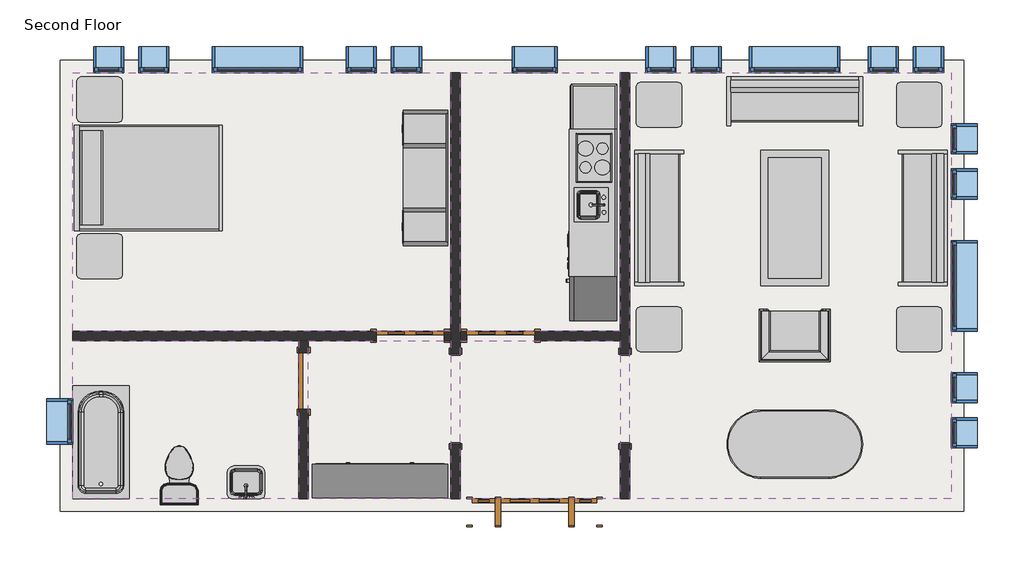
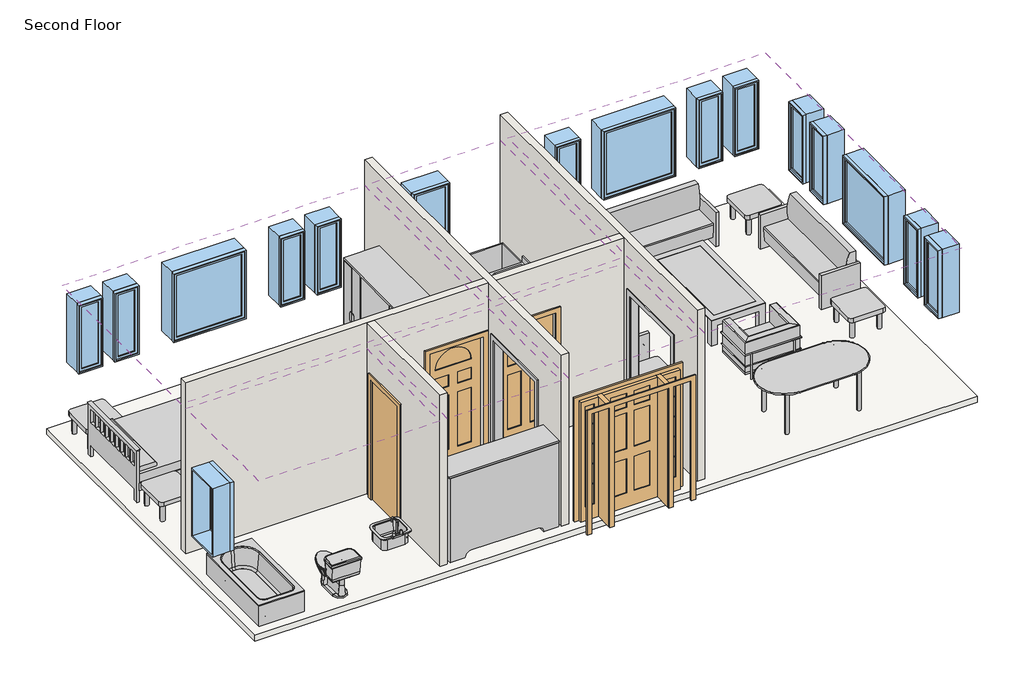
# One storey: 17 windows, 15 furniture elements, 6 coverings, 5 walls, 4 doors, 3 flow terminals, 3 proxies, 1 slab.
"""IFC4 building model written with IfcOpenShell, lengths in millimetres."""

from ifc_helpers import new_model, si_unit, frame, origin, place, context, project, spatial, polyline, outline, extrude, faceted_brep, transform, mapped, element, save
from components import proxy_64a468c4, proxy_f44482cc, door_829da954, door_2e3b4da2, door_4d6c7550, door_dba5aa2e, flow_terminal_0aeb31e3, toilet_domestic_3d_toilet_domestic_3d_f7549cf7, toilet_domestic_3d_toilet_domestic_3d_183bbd19, tub_rectangular_3d_tub_rectangular_3d_5e45a89b, furniture_096e7f55, chair_corbu_chair_corbu_2764bdef, furniture_7c473f12, furniture_ddc78764, furniture_4ef38d96, furniture_cd93a443, furniture_2c34a4f9, furniture_3a588284, furniture_1befe2a2, window_da97879f, window_d61ef850, window_60baf983, window_6eb97611

model = new_model("IFC4")

# Units and contexts
model_context = context("Model", 3, world=origin())
ifc_project = project(units=[si_unit("LENGTHUNIT", "METRE", prefix="MILLI")], contexts=[model_context])

# Site, building, storey
site = spatial("IfcSite", under=ifc_project)
building = spatial("IfcBuilding", under=site)
storey = spatial("IfcBuildingStorey", under=building, Name="Second Floor", Elevation=3048.0)

# Proxies
placement = place(None, origin())
proxy_shape = proxy_64a468c4(model_context)
element("IfcBuildingElementProxy", 1, Name="Kitchenette - Medium : 8'6\"", ObjectType="Kitchenette - Medium : 8'6\"", at=placement, inside=storey, context=model_context, shape_type="MappedRepresentation", body=[
    mapped(proxy_shape, transform((-3887.7589563, 8837.7956433, 3048.0), x_axis=(0.0, -1.0, 0.0), y_axis=(1.0, 0.0, 0.0), z_axis=(0.0, 0.0, 1.0))),
])
proxy_2_shape = proxy_f44482cc(model_context)
element("IfcBuildingElementProxy", 2, Name="Opening-Cased : 48\" x 84\"", ObjectType="Opening-Cased : 48\" x 84\"", at=placement, inside=storey, context=model_context, shape_type="MappedRepresentation", body=[
    mapped(proxy_2_shape, transform((-3773.4589563, 5882.4203434, 3048.0), x_axis=(0.0, 1.0, 0.0), y_axis=(-1.0, 0.0, 0.0), z_axis=(0.0, 0.0, 1.0))),
])
element("IfcBuildingElementProxy", 3, Name="Opening-Cased : 48\" x 84\"", ObjectType="Opening-Cased : 48\" x 84\"", at=placement, inside=storey, context=model_context, shape_type="MappedRepresentation", body=[
    mapped(proxy_2_shape, transform((-6059.4589563, 5866.04303, 3048.0), x_axis=(0.0, -1.0, 0.0), y_axis=(1.0, 0.0, 0.0), z_axis=(0.0, 0.0, 1.0))),
])

# Coverings
element("IfcCovering", 4, ObjectType="GWB on Mtl. Stud", at=placement, inside=storey, context=model_context, shape_type="SweptSolid", body=[
    extrude(outline(polyline([(-11217.2464563, 10270.0191867), (-6122.9589563, 10270.0191867), (-6122.9589563, 6787.0441867), (-11217.2464563, 6787.0441867), (-11217.2464563, 10270.0191867)])), frame((0.0, 0.0, 5638.8), z_axis=(0.0, 0.0, 1.0), x_axis=(1.0, 0.0, 0.0)), (0.0, 0.0, 1.0), 107.95),
])
element("IfcCovering", 5, ObjectType="GWB on Mtl. Stud", at=placement, inside=storey, context=model_context, shape_type="SweptSolid", body=[
    extrude(outline(polyline([(-5995.9589563, 6787.0441867), (-5995.9589563, 10270.0191867), (-3836.9589563, 10270.0191867), (-3836.9589563, 6787.0441867), (-5995.9589563, 6787.0441867)])), frame((0.0, 0.0, 5638.8), z_axis=(0.0, 0.0, 1.0), x_axis=(1.0, 0.0, 0.0)), (0.0, 0.0, 1.0), 107.95),
])
element("IfcCovering", 6, ObjectType="GWB on Mtl. Stud", at=placement, inside=storey, context=model_context, shape_type="SweptSolid", body=[
    extrude(outline(polyline([(-3709.9589563, 4526.4441867), (-3709.9589563, 10270.0191867), (622.3285437, 10270.0191867), (622.3285437, 4526.4441867), (-3709.9589563, 4526.4441867)])), frame((0.0, 0.0, 5638.8), z_axis=(0.0, 0.0, 1.0), x_axis=(1.0, 0.0, 0.0)), (0.0, 0.0, 1.0), 107.95),
])
element("IfcCovering", 7, ObjectType="GWB on Mtl. Stud", at=placement, inside=storey, context=model_context, shape_type="SweptSolid", body=[
    extrude(outline(polyline([(-3836.9589563, 4526.4441867), (-5995.9589563, 4526.4441867), (-5995.9589563, 6660.0441867), (-3836.9589563, 6660.0441867), (-3836.9589563, 4526.4441867)])), frame((0.0, 0.0, 5638.8), z_axis=(0.0, 0.0, 1.0), x_axis=(1.0, 0.0, 0.0)), (0.0, 0.0, 1.0), 107.95),
])
element("IfcCovering", 8, ObjectType="GWB on Mtl. Stud", at=placement, inside=storey, context=model_context, shape_type="SweptSolid", body=[
    extrude(outline(polyline([(-6122.9589563, 4526.4441867), (-8042.2464563, 4526.4441867), (-8042.2464563, 6660.0441867), (-6122.9589563, 6660.0441867), (-6122.9589563, 4526.4441867)])), frame((0.0, 0.0, 5638.8), z_axis=(0.0, 0.0, 1.0), x_axis=(1.0, 0.0, 0.0)), (0.0, 0.0, 1.0), 107.95),
])
element("IfcCovering", 9, ObjectType="GWB on Mtl. Stud", at=placement, inside=storey, context=model_context, shape_type="SweptSolid", body=[
    extrude(outline(polyline([(-8169.2464563, 6660.0441867), (-8169.2464563, 4526.4441867), (-11217.2464563, 4526.4441867), (-11217.2464563, 6660.0441867), (-8169.2464563, 6660.0441867)])), frame((0.0, 0.0, 5638.8), z_axis=(0.0, 0.0, 1.0), x_axis=(1.0, 0.0, 0.0)), (0.0, 0.0, 1.0), 107.95),
])

# Doors
door_shape = door_829da954(model_context)
element("IfcDoor", 10, ObjectType="Single-Decorative 2 : 36\" x 84\"", at=placement, inside=storey, context=model_context, shape_type="MappedRepresentation", body=[
    mapped(door_shape, transform((-5449.8589563, 6723.5441867, 3048.0), x_axis=(-1.0, 0.0, 0.0), y_axis=(0.0, -1.0, 0.0), z_axis=(0.0, 0.0, 1.0))),
])
door_2_shape = door_2e3b4da2(model_context)
element("IfcDoor", 11, ObjectType="Single-Decorative 2 : 36\" x 84\"", at=placement, inside=storey, context=model_context, shape_type="MappedRepresentation", body=[
    mapped(door_2_shape, transform((-6669.0589563, 6723.5441867, 3048.0), x_axis=(1.0, 0.0, 0.0), y_axis=(0.0, 1.0, 0.0), z_axis=(0.0, 0.0, 1.0))),
])
door_3_shape = door_4d6c7550(model_context)
element("IfcDoor", 12, ObjectType="Single-Flush : 30\" x 84\"", at=placement, inside=storey, context=model_context, shape_type="MappedRepresentation", body=[
    mapped(door_3_shape, transform((-8105.7464563, 6113.9441867, 3048.0), x_axis=(0.0, 1.0, 0.0), y_axis=(-1.0, 0.0, 0.0), z_axis=(0.0, 0.0, 1.0))),
])
door_4_shape = door_dba5aa2e(model_context)
element("IfcDoor", 13, ObjectType="Single-Raised Panel with Sidelights : 36\" x 84\"", at=placement, inside=storey, context=model_context, shape_type="MappedRepresentation", body=[
    mapped(door_4_shape, transform((-4992.6589563, 4350.2316867, 3048.0), x_axis=(-1.0, 0.0, 0.0), y_axis=(0.0, -1.0, 0.0), z_axis=(0.0, 0.0, 1.0))),
])

# Flow terminals
flow_terminal_shape = flow_terminal_0aeb31e3(model_context)
element("IfcFlowTerminal", 14, ObjectType="Sink Vanity-Square : 24\" x 19\"", at=placement, inside=storey, context=model_context, shape_type="MappedRepresentation", body=[
    mapped(flow_terminal_shape, transform((-8864.7572157, 4706.5895878, 3048.0), x_axis=(-1.0, 0.0, 0.0), y_axis=(0.0, -1.0, 0.0), z_axis=(0.0, 0.0, 1.0))),
])
toilet_domestic_3d_toilet_domestic_3d_shape = toilet_domestic_3d_toilet_domestic_3d_f7549cf7(model_context)
toilet_domestic_3d_toilet_domestic_3d_2_shape = toilet_domestic_3d_toilet_domestic_3d_183bbd19(model_context)
element("IfcFlowTerminal", 15, ObjectType="Toilet-Domestic-3D : Toilet-Domestic-3D", at=placement, inside=storey, context=model_context, shape_type="MappedRepresentation", body=[
    mapped(toilet_domestic_3d_toilet_domestic_3d_shape, transform((-9782.1466587, 4940.866411, 3048.0), x_axis=(-1.0000000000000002, 0.0, 0.0), y_axis=(0.0, -1.0000000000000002, 0.0), z_axis=(0.0, 0.0, 1.0))),
    mapped(toilet_domestic_3d_toilet_domestic_3d_2_shape, transform((-9782.1466587, 4940.866411, 3048.0), x_axis=(-1.0000000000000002, 0.0, 0.0), y_axis=(0.0, -1.0000000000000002, 0.0), z_axis=(0.0, 0.0, 1.0))),
])
tub_rectangular_3d_tub_rectangular_3d_shape = tub_rectangular_3d_tub_rectangular_3d_5e45a89b(model_context)
element("IfcFlowTerminal", 16, ObjectType="Tub-Rectangular-3D : Tub-Rectangular-3D", at=placement, inside=storey, context=model_context, shape_type="MappedRepresentation", body=[
    mapped(tub_rectangular_3d_tub_rectangular_3d_shape, transform((-11393.4589563, 5637.0471554, 3048.0), x_axis=(0.0, 1.0, 0.0), y_axis=(-1.0, 0.0, 0.0), z_axis=(0.0, 0.0, 1.0))),
])

# Furniture
furniture_shape = furniture_096e7f55(model_context)
element("IfcFurniture", 17, ObjectType="Bed-Shaker : Double 56\" x 78\"", at=placement, inside=storey, context=model_context, shape_type="MappedRepresentation", body=[
    mapped(furniture_shape, transform((-11183.1982802, 8871.8755561, 3048.0), x_axis=(0.0, 1.0, 0.0), y_axis=(-1.0, 0.0, 0.0), z_axis=(0.0, 0.0, 1.0))),
])
chair_corbu_chair_corbu_shape = chair_corbu_chair_corbu_2764bdef(model_context)
element("IfcFurniture", 18, ObjectType="Chair-Corbu : Chair-Corbu", at=placement, inside=storey, context=model_context, shape_type="MappedRepresentation", body=[
    mapped(chair_corbu_chair_corbu_shape, transform((-914.0851858, 7193.4962359, 3048.0), x_axis=(-1.0, 0.0, 0.0), y_axis=(0.0, -1.0, 0.0), z_axis=(0.0, 0.0, 1.0))),
])
furniture_2_shape = furniture_7c473f12(model_context)
element("IfcFurniture", 19, ObjectType="Dresser : 72\" x 60\" x 18\"", at=placement, inside=storey, context=model_context, shape_type="MappedRepresentation", body=[
    mapped(furniture_2_shape, transform((-7344.6522161, 4404.5812326, 3048.0), x_axis=(-1.0, 0.0, 0.0), y_axis=(0.0, -1.0, 0.0), z_axis=(0.0, 0.0, 1.0))),
])
furniture_3_shape = furniture_ddc78764(model_context)
element("IfcFurniture", 20, ObjectType="Entertainment Center : 72\" x 72\" x 24\"", at=placement, inside=storey, context=model_context, shape_type="MappedRepresentation", body=[
    mapped(furniture_3_shape, transform((-6059.4589563, 8852.8255561, 3048.0), x_axis=(0.0, -1.0, 0.0), y_axis=(1.0, 0.0, 0.0), z_axis=(0.0, 0.0, 1.0))),
])
furniture_4_shape = furniture_4ef38d96(model_context)
element("IfcFurniture", 21, ObjectType="Sofa : 72\"", at=placement, inside=storey, context=model_context, shape_type="MappedRepresentation", body=[
    mapped(furniture_4_shape, transform((-1557.8294481, 9741.2775883, 3048.0), x_axis=(1.0, 0.0, 0.0), y_axis=(0.0, 1.0, 0.0), z_axis=(0.0, 0.0, 1.0))),
])
element("IfcFurniture", 22, ObjectType="Sofa : 72\"", at=placement, inside=storey, context=model_context, shape_type="MappedRepresentation", body=[
    mapped(furniture_4_shape, transform((93.5869453, 8383.0021785, 3048.0), x_axis=(0.0, -1.0, 0.0), y_axis=(1.0, 0.0, 0.0), z_axis=(0.0, 0.0, 1.0))),
])
element("IfcFurniture", 23, ObjectType="Sofa : 72\"", at=placement, inside=storey, context=model_context, shape_type="MappedRepresentation", body=[
    mapped(furniture_4_shape, transform((-3170.104858, 8242.2611949, 3048.0), x_axis=(0.0, 1.0, 0.0), y_axis=(-1.0, 0.0, 0.0), z_axis=(0.0, 0.0, 1.0))),
])
furniture_5_shape = furniture_cd93a443(model_context)
element("IfcFurniture", 24, ObjectType="Table-Coffee : 36\" x 72\" x 18\"", at=placement, inside=storey, context=model_context, shape_type="MappedRepresentation", body=[
    mapped(furniture_5_shape, transform((-1582.6700341, 8330.8974534, 3048.0), x_axis=(0.0, -1.0, 0.0), y_axis=(1.0, 0.0, 0.0), z_axis=(0.0, 0.0, 1.0))),
])
furniture_6_shape = furniture_2c34a4f9(model_context)
element("IfcFurniture", 25, ObjectType="Table-Dining Oval : 36\" x 72\"", at=placement, inside=storey, context=model_context, shape_type="MappedRepresentation", body=[
    mapped(furniture_6_shape, transform((-1085.6392842, 5622.7300473, 3048.0), x_axis=(1.0, 0.0, 0.0), y_axis=(0.0, 1.0, 0.0), z_axis=(0.0, 0.0, 1.0))),
])
furniture_7_shape = furniture_3a588284(model_context)
element("IfcFurniture", 26, ObjectType="Table-End : 24\" x 24\"", at=placement, inside=storey, context=model_context, shape_type="MappedRepresentation", body=[
    mapped(furniture_7_shape, transform((-119.5925866, 9684.2316867, 3048.0), x_axis=(1.0, 0.0, 0.0), y_axis=(0.0, 1.0, 0.0), z_axis=(0.0, 0.0, 1.0))),
])
element("IfcFurniture", 27, ObjectType="Table-End : 24\" x 24\"", at=placement, inside=storey, context=model_context, shape_type="MappedRepresentation", body=[
    mapped(furniture_7_shape, transform((-3624.7925866, 9684.2316867, 3048.0), x_axis=(1.0, 0.0, 0.0), y_axis=(0.0, 1.0, 0.0), z_axis=(0.0, 0.0, 1.0))),
])
element("IfcFurniture", 28, ObjectType="Table-End : 24\" x 24\"", at=placement, inside=storey, context=model_context, shape_type="MappedRepresentation", body=[
    mapped(furniture_7_shape, transform((-3624.7925866, 6660.0441867, 3048.0), x_axis=(1.0, 0.0, 0.0), y_axis=(0.0, 1.0, 0.0), z_axis=(0.0, 0.0, 1.0))),
])
element("IfcFurniture", 29, ObjectType="Table-End : 24\" x 24\"", at=placement, inside=storey, context=model_context, shape_type="MappedRepresentation", body=[
    mapped(furniture_7_shape, transform((-119.5925866, 6660.0441867, 3048.0), x_axis=(1.0, 0.0, 0.0), y_axis=(0.0, 1.0, 0.0), z_axis=(0.0, 0.0, 1.0))),
])
element("IfcFurniture", 30, ObjectType="Table-End : 24\" x 24\"", at=placement, inside=storey, context=model_context, shape_type="MappedRepresentation", body=[
    mapped(furniture_7_shape, transform((-11164.2346356, 9756.0737357, 3048.0), x_axis=(1.0, 0.0, 0.0), y_axis=(0.0, 1.0, 0.0), z_axis=(0.0, 0.0, 1.0))),
])
furniture_8_shape = furniture_1befe2a2(model_context)
element("IfcFurniture", 31, ObjectType="Table-End : 24\" x 24\"", at=placement, inside=storey, context=model_context, shape_type="MappedRepresentation", body=[
    mapped(furniture_8_shape, transform((-11164.2346356, 7949.5773764, 3048.0), x_axis=(1.0, 0.0, 0.0), y_axis=(0.0, 1.0, 0.0), z_axis=(0.0, 0.0, 1.0))),
])

# Slab
element("IfcSlab", 32, ObjectType="LW Concrete on Metal Deck", at=placement, inside=storey, context=model_context, shape_type="SweptSolid", body=[
    extrude(outline(polyline([(787.4285437, 10435.1191867), (787.4285437, 4361.3441867), (-11382.3464563, 4361.3441867), (-11382.3464563, 10435.1191867), (787.4285437, 10435.1191867)])), frame((0.0, 0.0, 2943.225), z_axis=(0.0, 0.0, 1.0), x_axis=(1.0, 0.0, 0.0)), (0.0, 0.0, 1.0), 104.775),
])

# Walls
element("IfcWall", 33, ObjectType="Interior - 5\" Partition (2-hr)", at=placement, inside=storey, context=model_context, shape_type="Brep", body=[
    faceted_brep([(-3709.9589563, 10270.0191867, 3048.0), (-3709.9589563, 6483.8316867, 3048.0), (-3836.9589563, 6483.8316867, 3048.0), (-3836.9589563, 6660.0441867, 3048.0), (-3836.9589563, 6787.0441867, 3048.0), (-3836.9589563, 10270.0191867, 3048.0), (-3709.9589563, 5264.6316867, 3048.0), (-3709.9589563, 4526.4441867, 3048.0), (-3836.9589563, 4526.4441867, 3048.0), (-3836.9589563, 5264.6316867, 3048.0), (-3836.9589563, 10270.0191867, 6096.0), (-3836.9589563, 6787.0441867, 6096.0), (-3836.9589563, 6660.0441867, 6096.0), (-3836.9589563, 4526.4441867, 6096.0), (-3709.9589563, 4526.4441867, 6096.0), (-3709.9589563, 10270.0191867, 6096.0), (-3836.9589563, 6483.8316867, 5181.6), (-3836.9589563, 5264.6316867, 5181.6), (-3709.9589563, 6483.8316867, 5181.6), (-3709.9589563, 5264.6316867, 5181.6)], [[[0, 1, 2, 3, 4, 5]], [[6, 7, 8, 9]], [[10, 11, 12, 13, 14, 15]], [[5, 4, 3, 2, 16, 17, 9, 8, 13, 12, 11, 10]], [[18, 1, 0, 15, 14, 7, 6, 19]], [[5, 10, 15, 0]], [[13, 8, 7, 14]], [[9, 17, 19, 6]], [[16, 2, 1, 18]], [[17, 16, 18, 19]]]),
])
element("IfcWall", 34, ObjectType="Interior - 5\" Partition (2-hr)", at=placement, inside=storey, context=model_context, shape_type="Brep", body=[
    faceted_brep([(-6122.9589563, 4526.4441867, 3048.0), (-6122.9589563, 5264.6316867, 3048.0), (-5995.9589563, 5264.6316867, 3048.0), (-5995.9589563, 4526.4441867, 3048.0), (-6122.9589563, 6483.8316867, 3048.0), (-6122.9589563, 6660.0441867, 3048.0), (-6122.9589563, 6787.0441867, 3048.0), (-6122.9589563, 10270.0191867, 3048.0), (-5995.9589563, 10270.0191867, 3048.0), (-5995.9589563, 6787.0441867, 3048.0), (-5995.9589563, 6660.0441867, 3048.0), (-5995.9589563, 6483.8316867, 3048.0), (-6122.9589563, 10270.0191867, 6096.0), (-6122.9589563, 6787.0441867, 6096.0), (-6122.9589563, 6660.0441867, 6096.0), (-6122.9589563, 4526.4441867, 6096.0), (-5995.9589563, 4526.4441867, 6096.0), (-5995.9589563, 6660.0441867, 6096.0), (-5995.9589563, 6787.0441867, 6096.0), (-5995.9589563, 10270.0191867, 6096.0), (-6122.9589563, 5264.6316867, 5181.6), (-6122.9589563, 6483.8316867, 5181.6), (-5995.9589563, 5264.6316867, 5181.6), (-5995.9589563, 6483.8316867, 5181.6)], [[[0, 1, 2, 3]], [[4, 5, 6, 7, 8, 9, 10, 11]], [[12, 13, 14, 15, 16, 17, 18, 19]], [[20, 1, 0, 15, 14, 13, 12, 7, 6, 5, 4, 21]], [[3, 2, 22, 23, 11, 10, 9, 8, 19, 18, 17, 16]], [[7, 12, 19, 8]], [[15, 0, 3, 16]], [[11, 23, 21, 4]], [[22, 2, 1, 20]], [[23, 22, 20, 21]]]),
])
element("IfcWall", 35, ObjectType="Interior - 5\" Partition (2-hr)", at=placement, inside=storey, context=model_context, shape_type="Brep", body=[
    faceted_brep([(-6122.9589563, 6660.0441867, 3048.0), (-6211.8589563, 6660.0441867, 3048.0), (-6211.8589563, 6787.0441867, 3048.0), (-6122.9589563, 6787.0441867, 3048.0), (-7126.2589563, 6660.0441867, 3048.0), (-8042.2464563, 6660.0441867, 3048.0), (-8169.2464563, 6660.0441867, 3048.0), (-11217.2464563, 6660.0441867, 3048.0), (-11217.2464563, 6787.0441867, 3048.0), (-7126.2589563, 6787.0441867, 3048.0), (-11217.2464563, 6660.0441867, 6096.0), (-8169.2464563, 6660.0441867, 6096.0), (-8042.2464563, 6660.0441867, 6096.0), (-6122.9589563, 6660.0441867, 6096.0), (-6122.9589563, 6787.0441867, 6096.0), (-11217.2464563, 6787.0441867, 6096.0), (-6211.8589563, 6660.0441867, 5181.6), (-7126.2589563, 6660.0441867, 5181.6), (-6211.8589563, 6787.0441867, 5181.6), (-7126.2589563, 6787.0441867, 5181.6)], [[[0, 1, 2, 3]], [[4, 5, 6, 7, 8, 9]], [[10, 11, 12, 13, 14, 15]], [[16, 1, 0, 13, 12, 11, 10, 7, 6, 5, 4, 17]], [[3, 2, 18, 19, 9, 8, 15, 14]], [[13, 0, 3, 14]], [[7, 10, 15, 8]], [[18, 2, 1, 16]], [[19, 18, 16, 17]], [[9, 19, 17, 4]]]),
])
element("IfcWall", 36, ObjectType="Interior - 5\" Partition (2-hr)", at=placement, inside=storey, context=model_context, shape_type="SweptSolid", body=[
    extrude(outline(polyline([(6660.0441867, 3048.0), (6494.9441867, 3048.0), (6494.9441867, 5181.6), (5732.9441867, 5181.6), (5732.9441867, 3048.0), (4526.4441867, 3048.0), (4526.4441867, 6096.0), (6660.0441867, 6096.0), (6660.0441867, 3048.0)])), frame((-8169.2464563, 0.0, 0.0), z_axis=(1.0, 0.0, 0.0), x_axis=(0.0, 1.0, 0.0)), (0.0, 0.0, 1.0), 127.0),
])
element("IfcWall", 37, ObjectType="Interior - 5\" Partition (2-hr)", at=placement, inside=storey, context=model_context, shape_type="SweptSolid", body=[
    extrude(outline(polyline([(3048.0, -5995.9589563), (3048.0, -5907.0589563), (5181.6, -5907.0589563), (5181.6, -4992.6589563), (3048.0, -4992.6589563), (3048.0, -3836.9589563), (6096.0, -3836.9589563), (6096.0, -5995.9589563), (3048.0, -5995.9589563)])), frame((0.0, 6660.0441867, 0.0), z_axis=(0.0, 1.0, 0.0), x_axis=(0.0, 0.0, 1.0)), (0.0, 0.0, 1.0), 127.0),
])

# Windows
window_shape = window_da97879f(model_context)
element("IfcWindow", 38, ObjectType="Fixed : 16\" x 48\"", at=placement, inside=storey, context=model_context, shape_type="MappedRepresentation", body=[
    mapped(window_shape, transform((-10771.1589563, 10446.2316867, 3048.0), x_axis=(-1.0, 0.0, 0.0), y_axis=(0.0, -1.0, 0.0), z_axis=(0.0, 0.0, 1.0))),
])
element("IfcWindow", 39, ObjectType="Fixed : 16\" x 48\"", at=placement, inside=storey, context=model_context, shape_type="MappedRepresentation", body=[
    mapped(window_shape, transform((-10161.5589563, 10446.2316867, 3048.0), x_axis=(-1.0, 0.0, 0.0), y_axis=(0.0, -1.0, 0.0), z_axis=(0.0, 0.0, 1.0))),
])
element("IfcWindow", 40, ObjectType="Fixed : 16\" x 48\"", at=placement, inside=storey, context=model_context, shape_type="MappedRepresentation", body=[
    mapped(window_shape, transform((-3328.9589563, 10446.2316867, 3048.0), x_axis=(-1.0, 0.0, 0.0), y_axis=(0.0, -1.0, 0.0), z_axis=(0.0, 0.0, 1.0))),
])
element("IfcWindow", 41, ObjectType="Fixed : 16\" x 48\"", at=placement, inside=storey, context=model_context, shape_type="MappedRepresentation", body=[
    mapped(window_shape, transform((-2719.3589563, 10446.2316867, 3048.0), x_axis=(-1.0, 0.0, 0.0), y_axis=(0.0, -1.0, 0.0), z_axis=(0.0, 0.0, 1.0))),
])
element("IfcWindow", 42, ObjectType="Fixed : 16\" x 48\"", at=placement, inside=storey, context=model_context, shape_type="MappedRepresentation", body=[
    mapped(window_shape, transform((798.5410437, 9417.5316867, 3048.0), x_axis=(0.0, 1.0, 0.0), y_axis=(-1.0, 0.0, 0.0), z_axis=(0.0, 0.0, 1.0))),
])
element("IfcWindow", 43, ObjectType="Fixed : 16\" x 48\"", at=placement, inside=storey, context=model_context, shape_type="MappedRepresentation", body=[
    mapped(window_shape, transform((798.5410437, 8807.9316867, 3048.0), x_axis=(0.0, 1.0, 0.0), y_axis=(-1.0, 0.0, 0.0), z_axis=(0.0, 0.0, 1.0))),
])
window_2_shape = window_d61ef850(model_context)
element("IfcWindow", 44, ObjectType="Fixed : 16\" x 48\"", at=placement, inside=storey, context=model_context, shape_type="MappedRepresentation", body=[
    mapped(window_2_shape, transform((-6681.7589563, 10446.2316867, 3048.0), x_axis=(1.0, 0.0, 0.0), y_axis=(0.0, 1.0, 0.0), z_axis=(0.0, 0.0, 1.0))),
])
element("IfcWindow", 45, ObjectType="Fixed : 16\" x 48\"", at=placement, inside=storey, context=model_context, shape_type="MappedRepresentation", body=[
    mapped(window_2_shape, transform((-7291.3589563, 10446.2316867, 3048.0), x_axis=(1.0, 0.0, 0.0), y_axis=(0.0, 1.0, 0.0), z_axis=(0.0, 0.0, 1.0))),
])
element("IfcWindow", 46, ObjectType="Fixed : 16\" x 48\"", at=placement, inside=storey, context=model_context, shape_type="MappedRepresentation", body=[
    mapped(window_2_shape, transform((354.0410437, 10446.2316867, 3048.0), x_axis=(1.0, 0.0, 0.0), y_axis=(0.0, 1.0, 0.0), z_axis=(0.0, 0.0, 1.0))),
])
element("IfcWindow", 47, ObjectType="Fixed : 16\" x 48\"", at=placement, inside=storey, context=model_context, shape_type="MappedRepresentation", body=[
    mapped(window_2_shape, transform((-255.5589563, 10446.2316867, 3048.0), x_axis=(1.0, 0.0, 0.0), y_axis=(0.0, 1.0, 0.0), z_axis=(0.0, 0.0, 1.0))),
])
element("IfcWindow", 48, ObjectType="Fixed : 16\" x 48\"", at=placement, inside=storey, context=model_context, shape_type="MappedRepresentation", body=[
    mapped(window_2_shape, transform((798.5410437, 5378.9316867, 3048.0), x_axis=(0.0, -1.0, 0.0), y_axis=(1.0, 0.0, 0.0), z_axis=(0.0, 0.0, 1.0))),
])
element("IfcWindow", 49, ObjectType="Fixed : 16\" x 48\"", at=placement, inside=storey, context=model_context, shape_type="MappedRepresentation", body=[
    mapped(window_2_shape, transform((798.5410437, 5988.5316867, 3048.0), x_axis=(0.0, -1.0, 0.0), y_axis=(1.0, 0.0, 0.0), z_axis=(0.0, 0.0, 1.0))),
])
window_3_shape = window_60baf983(model_context)
element("IfcWindow", 50, ObjectType="Fixed : 24\" x 48\"", at=placement, inside=storey, context=model_context, shape_type="MappedRepresentation", body=[
    mapped(window_3_shape, transform((-5030.7589563, 10446.2316867, 3048.0), x_axis=(-1.0, 0.0, 0.0), y_axis=(0.0, -1.0, 0.0), z_axis=(0.0, 0.0, 1.0))),
])
element("IfcWindow", 51, ObjectType="Fixed : 24\" x 48\"", at=placement, inside=storey, context=model_context, shape_type="MappedRepresentation", body=[
    mapped(window_3_shape, transform((-11393.4589563, 5531.3316867, 3048.0), x_axis=(0.0, -1.0, 0.0), y_axis=(1.0, 0.0, 0.0), z_axis=(0.0, 0.0, 1.0))),
])
window_4_shape = window_6eb97611(model_context)
element("IfcWindow", 52, ObjectType="Fixed : 48\" x 48\"", at=placement, inside=storey, context=model_context, shape_type="MappedRepresentation", body=[
    mapped(window_4_shape, transform((-8764.5589563, 10446.2316867, 3048.0), x_axis=(-1.0, 0.0, 0.0), y_axis=(0.0, -1.0, 0.0), z_axis=(0.0, 0.0, 1.0))),
])
element("IfcWindow", 53, ObjectType="Fixed : 48\" x 48\"", at=placement, inside=storey, context=model_context, shape_type="MappedRepresentation", body=[
    mapped(window_4_shape, transform((-1525.5589563, 10446.2316867, 3048.0), x_axis=(-1.0, 0.0, 0.0), y_axis=(0.0, -1.0, 0.0), z_axis=(0.0, 0.0, 1.0))),
])
element("IfcWindow", 54, ObjectType="Fixed : 48\" x 48\"", at=placement, inside=storey, context=model_context, shape_type="MappedRepresentation", body=[
    mapped(window_4_shape, transform((798.5410437, 7436.3316867, 3048.0), x_axis=(0.0, 1.0, 0.0), y_axis=(-1.0, 0.0, 0.0), z_axis=(0.0, 0.0, 1.0))),
])

save(model, "model.ifc")
